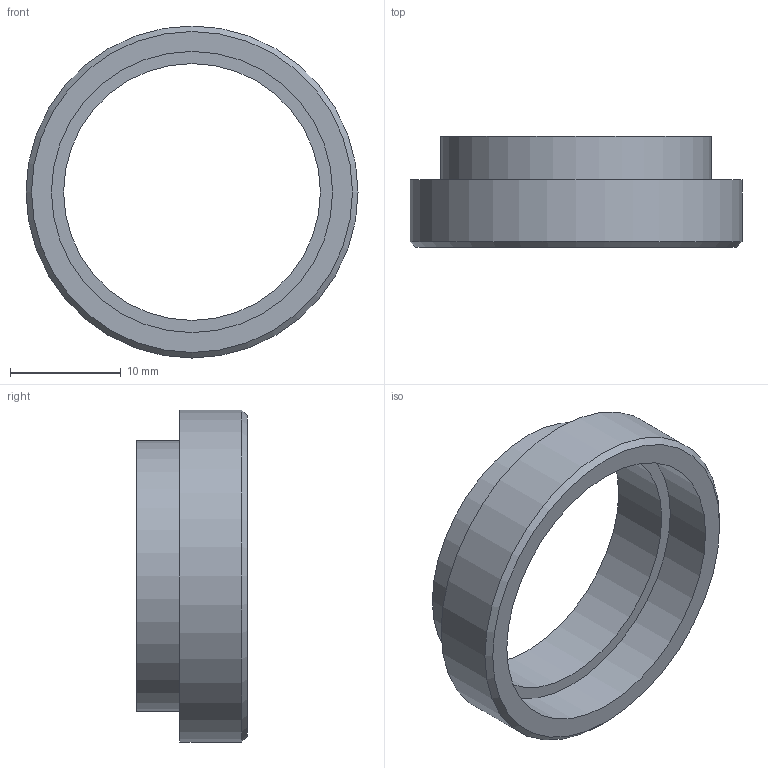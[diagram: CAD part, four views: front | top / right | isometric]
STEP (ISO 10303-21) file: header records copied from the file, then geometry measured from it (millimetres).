
FILE_DESCRIPTION(('Bauteilbeschreibung','HiCAD-Model','HiCAD-STEP-TRANSLATION','Bauteilbeschreibung'),'2;1');
FILE_NAME('D:/065210_STEP.STP','2005-02-09T15:27:53+00:00',('Konstrukteur'),('Konstrukteur Firma GmbH'),'HiCAD2 V1102 STEP 20.9.2001','HiCAD2 V1102','confidential');
FILE_SCHEMA(('AUTOMOTIVE_DESIGN { 1 2 10303 214 0 1 1 1 }'));
Length unit declared in the file: millimetre
Products named in the file (2): A0014577; A00145770
Assembly tree (1 placements, depth 2):
  A0014577
    A00145770
Bounding box: 30 x 10 x 30 mm (x, y, z)
Volume: 1522.5 mm3; surface area: 2174.5 mm2
Topology: 1 solids, 1 shells, 9 faces, 15 edges, 10 vertices
Faces by surface type: cylinder 4, plane 4, cone 1
Full cylindrical faces by diameter (mm): 23.2 x1, 24.426 x1, 25.4 x1, 30 x1
Entity records: 352 total; most frequent: DIRECTION 40, CARTESIAN_POINT 29, AXIS2_PLACEMENT_3D 20, COLOUR_RGB 19, PRESENTATION_STYLE_ASSIGNMENT 19, EDGE_LOOP 18, ORIENTED_EDGE 18, OVER_RIDING_STYLED_ITEM 18
